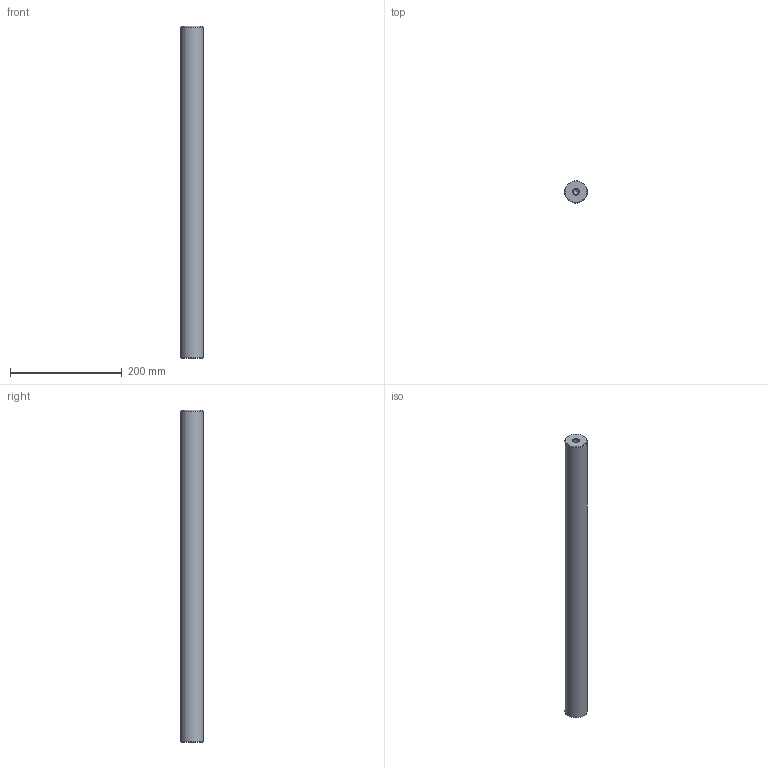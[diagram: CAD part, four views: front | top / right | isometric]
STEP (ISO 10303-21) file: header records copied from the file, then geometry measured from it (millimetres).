
FILE_DESCRIPTION( ( 'STEP AP214' ), '1' );
FILE_NAME( 'U:/Etudes/Top Solid/BIBLIO 3D AVM/STEP/G_GUIDAGE/Accessoires/Colonnes/Ø40x593.step', '2007-06-18T12:30:46', ( ' ' ), ( ' ' ), 'XStep 1.0', ' ', ' ' );
FILE_SCHEMA( ( 'automotive_design' ) );
Length unit declared in the file: metre
Products named in the file (1): 1
Bounding box: 40 x 40 x 593 mm (x, y, z)
Volume: 739826.9 mm3; surface area: 78913.5 mm2
Topology: 1 solids, 1 shells, 13 faces, 27 edges, 16 vertices
Faces by surface type: cone 6, cylinder 5, plane 2
Full cylindrical faces by diameter (mm): 10.106 x4, 40 x1
Entity records: 382 total; most frequent: DIRECTION 52, CARTESIAN_POINT 40, AXIS2_PLACEMENT_3D 26, EDGE_LOOP 24, ORIENTED_EDGE 24, FACE_OUTER_BOUND 18, VERTEX_POINT 14, STYLED_ITEM 13
